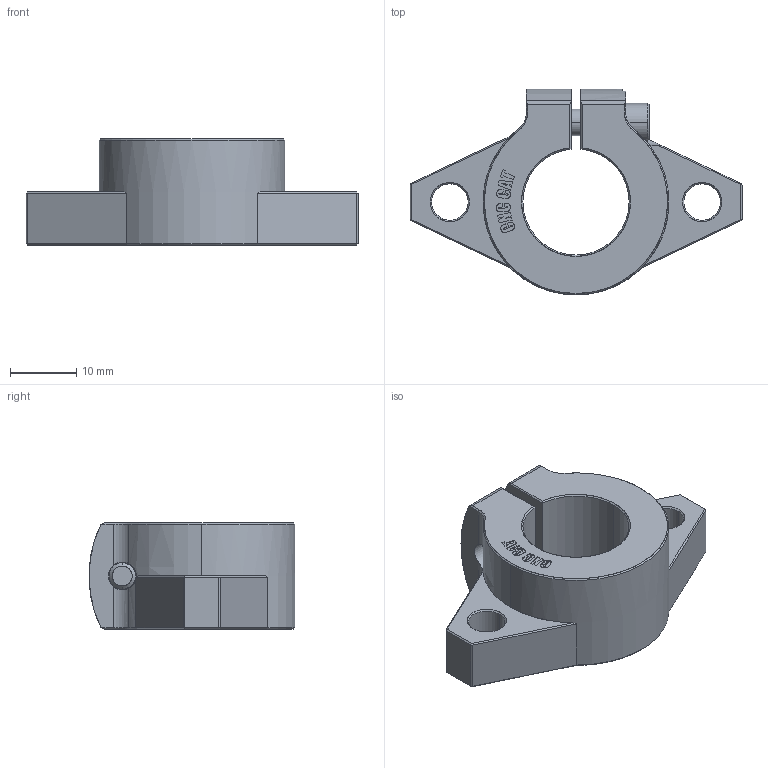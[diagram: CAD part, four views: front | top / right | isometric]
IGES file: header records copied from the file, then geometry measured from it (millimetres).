
Start section: SolidWorks IGES file using analytic representation for surfaces
Global section: file name: D:\SOLIDWORKS PROEKTI\freelance cnc cat\TRETA SERIJA SHF, SK\SHF\SHF16.IGS; native system: SolidWorks 2016; preprocessor: SolidWorks 2016; author: User; date: 170808.181727; units: millimetre
Bounding box: 50 x 31 x 16 mm (x, y, z)
Surface area: 4809.5 mm2 (no closed solid volume)
Topology: 0 solids, 0 shells, 207 faces, 2654 edges, 3185 vertices
Faces by surface type: bspline 137, revolution 70
